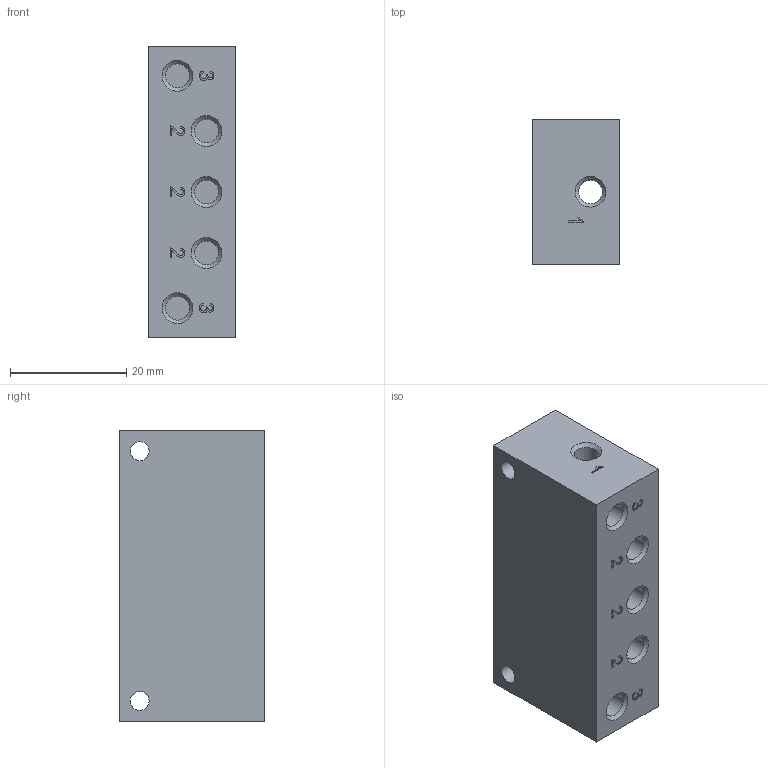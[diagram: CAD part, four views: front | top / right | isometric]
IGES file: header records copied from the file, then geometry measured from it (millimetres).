
Global section: file name: 395_03; native system: Autodesk Inventor 2014; preprocessor: unknown; author: R.Rivoltella; organization: Pneumax S.p.A.; date: 20161005.082357; units: millimetre
Bounding box: 15 x 25 x 50 mm (x, y, z)
Volume: 17240.6 mm3; surface area: 6157.5 mm2
Topology: 1 solids, 1 shells, 142 faces, 400 edges, 274 vertices
Faces by surface type: bspline 142
